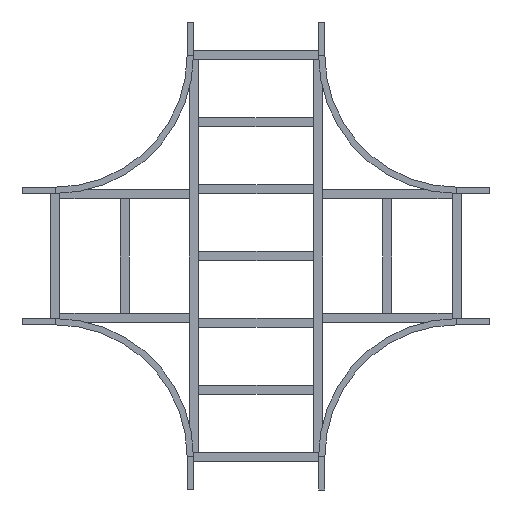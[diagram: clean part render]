
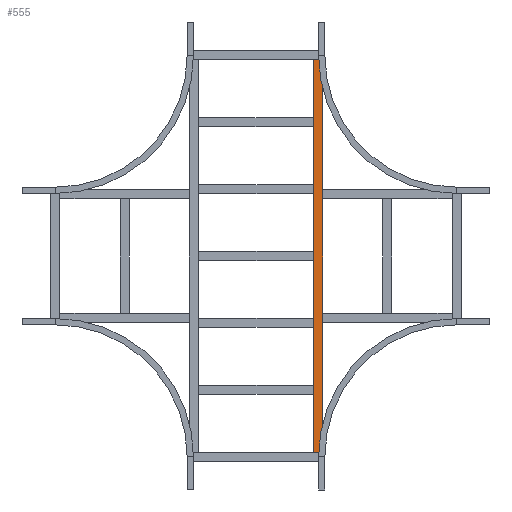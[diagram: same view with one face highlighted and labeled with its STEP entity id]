
A CAD part, front view. The second image highlights one B-rep face of the part: STEP entity #555.
In plain terms, the highlighted planar face has unit normal (0, -1, 0).
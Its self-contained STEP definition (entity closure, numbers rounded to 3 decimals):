
#219 = EDGE_LOOP ( 'NONE', ( #1755, #1555, #2246, #2005 ) ) ;
#349 = VECTOR ( 'NONE', #2382, 1000. ) ;
#435 = DIRECTION ( 'NONE',  ( 0., 0., -1. ) ) ;
#442 = AXIS2_PLACEMENT_3D ( 'NONE', #732, #1577, #1166 ) ;
#475 = DIRECTION ( 'NONE',  ( -1., 0., 0. ) ) ;
#555 = ADVANCED_FACE ( 'NONE', ( #2606 ), #965, .F. ) ;
#732 = CARTESIAN_POINT ( 'NONE',  ( 879.75, 0., 20.25 ) ) ;
#778 = CARTESIAN_POINT ( 'NONE',  ( -879.75, 0., 20.25 ) ) ;
#885 = VECTOR ( 'NONE', #1567, 1000. ) ;
#916 = CARTESIAN_POINT ( 'NONE',  ( -879.75, 0., -20.25 ) ) ;
#920 = VERTEX_POINT ( 'NONE', #916 ) ;
#965 = PLANE ( 'NONE',  #442 ) ;
#969 = CARTESIAN_POINT ( 'NONE',  ( 879.75, 0., 20.25 ) ) ;
#985 = LINE ( 'NONE', #2418, #349 ) ;
#992 = EDGE_CURVE ( 'NONE', #2413, #920, #985, .T. ) ;
#1014 = EDGE_CURVE ( 'NONE', #2436, #2413, #1954, .T. ) ;
#1047 = CARTESIAN_POINT ( 'NONE',  ( 879.75, 0., -20.25 ) ) ;
#1093 = CARTESIAN_POINT ( 'NONE',  ( 879.75, 0., 20.25 ) ) ;
#1166 = DIRECTION ( 'NONE',  ( 0., 0., 1. ) ) ;
#1489 = LINE ( 'NONE', #2109, #2541 ) ;
#1555 = ORIENTED_EDGE ( 'NONE', *, *, #992, .F. ) ;
#1567 = DIRECTION ( 'NONE',  ( 0., 0., -1. ) ) ;
#1577 = DIRECTION ( 'NONE',  ( 0., 1., 0. ) ) ;
#1621 = EDGE_CURVE ( 'NONE', #1792, #920, #1489, .T. ) ;
#1629 = VECTOR ( 'NONE', #475, 1000. ) ;
#1710 = LINE ( 'NONE', #1093, #1629 ) ;
#1755 = ORIENTED_EDGE ( 'NONE', *, *, #1621, .T. ) ;
#1792 = VERTEX_POINT ( 'NONE', #778 ) ;
#1954 = LINE ( 'NONE', #969, #885 ) ;
#2005 = ORIENTED_EDGE ( 'NONE', *, *, #2471, .T. ) ;
#2109 = CARTESIAN_POINT ( 'NONE',  ( -879.75, 0., 20.25 ) ) ;
#2246 = ORIENTED_EDGE ( 'NONE', *, *, #1014, .F. ) ;
#2248 = CARTESIAN_POINT ( 'NONE',  ( 879.75, 0., 20.25 ) ) ;
#2382 = DIRECTION ( 'NONE',  ( -1., 0., 0. ) ) ;
#2413 = VERTEX_POINT ( 'NONE', #1047 ) ;
#2418 = CARTESIAN_POINT ( 'NONE',  ( 879.75, 0., -20.25 ) ) ;
#2436 = VERTEX_POINT ( 'NONE', #2248 ) ;
#2471 = EDGE_CURVE ( 'NONE', #2436, #1792, #1710, .T. ) ;
#2541 = VECTOR ( 'NONE', #435, 1000. ) ;
#2606 = FACE_OUTER_BOUND ( 'NONE', #219, .T. ) ;
